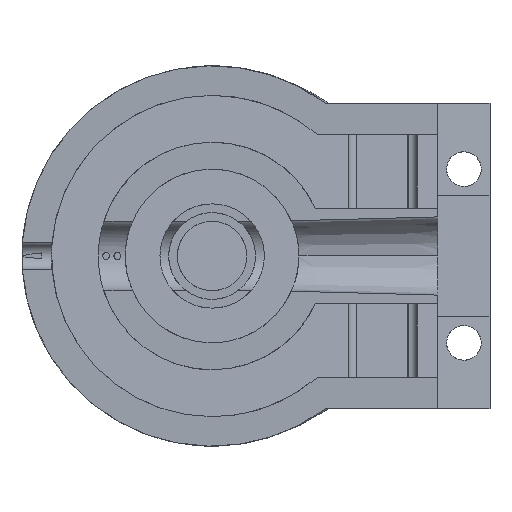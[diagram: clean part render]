
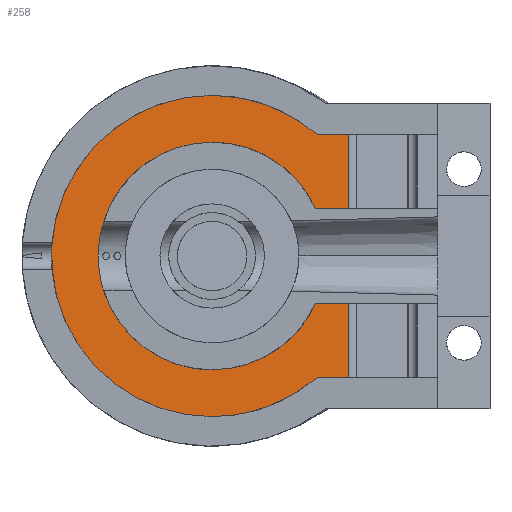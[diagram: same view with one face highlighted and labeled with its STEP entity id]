
A CAD part, left-side view. The second image highlights one B-rep face of the part: STEP entity #258.
In plain terms, the highlighted planar face has unit normal (-0.994, -0.113, 0).
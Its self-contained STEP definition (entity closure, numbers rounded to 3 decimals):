
#258=ADVANCED_FACE('',(#539),#540,.T.);
#539=FACE_OUTER_BOUND('',#828,.T.);
#540=PLANE('',#829);
#828=EDGE_LOOP('',(#1596,#1597,#1598,#1599,#1600,#1601,#1602,#1603,#1604,#1605,#1606,#1607));
#829=AXIS2_PLACEMENT_3D('',#1608,#1609,#1610);
#1596=ORIENTED_EDGE('',*,*,#2100,.T.);
#1597=ORIENTED_EDGE('',*,*,#2052,.F.);
#1598=ORIENTED_EDGE('',*,*,#1972,.F.);
#1599=ORIENTED_EDGE('',*,*,#1901,.F.);
#1600=ORIENTED_EDGE('',*,*,#1970,.F.);
#1601=ORIENTED_EDGE('',*,*,#1996,.F.);
#1602=ORIENTED_EDGE('',*,*,#2101,.T.);
#1603=ORIENTED_EDGE('',*,*,#2029,.F.);
#1604=ORIENTED_EDGE('',*,*,#1926,.F.);
#1605=ORIENTED_EDGE('',*,*,#2040,.F.);
#1606=ORIENTED_EDGE('',*,*,#1948,.F.);
#1607=ORIENTED_EDGE('',*,*,#2102,.F.);
#1608=CARTESIAN_POINT('',(7.184,77.72,0.));
#1609=DIRECTION('',(-0.994,-0.113,0.));
#1610=DIRECTION('',(0.,0.,1.0));
#1901=EDGE_CURVE('',#2348,#2351,#2352,.T.);
#1926=EDGE_CURVE('',#2386,#2389,#2390,.T.);
#1948=EDGE_CURVE('',#2421,#2419,#2423,.T.);
#1970=EDGE_CURVE('',#2454,#2348,#2456,.T.);
#1972=EDGE_CURVE('',#2351,#2458,#2459,.T.);
#1996=EDGE_CURVE('',#2496,#2454,#2498,.T.);
#2029=EDGE_CURVE('',#2389,#2533,#2541,.T.);
#2040=EDGE_CURVE('',#2419,#2386,#2555,.T.);
#2052=EDGE_CURVE('',#2458,#2566,#2571,.T.);
#2100=EDGE_CURVE('',#2633,#2566,#2634,.T.);
#2101=EDGE_CURVE('',#2496,#2533,#2635,.T.);
#2102=EDGE_CURVE('',#2633,#2421,#2636,.T.);
#2348=VERTEX_POINT('',#3479);
#2351=VERTEX_POINT('',#3483);
#2352=ELLIPSE('',#3484,18.62,18.5);
#2386=VERTEX_POINT('',#3650);
#2389=VERTEX_POINT('',#3654);
#2390=ELLIPSE('',#3655,13.185,13.1);
#2419=VERTEX_POINT('',#3764);
#2421=VERTEX_POINT('',#3767);
#2423=ELLIPSE('',#3770,13.185,13.1);
#2454=VERTEX_POINT('',#3811);
#2456=ELLIPSE('',#3814,18.62,18.5);
#2458=VERTEX_POINT('',#3816);
#2459=ELLIPSE('',#3817,18.62,18.5);
#2496=VERTEX_POINT('',#3907);
#2498=LINE('',#3909,#3910);
#2533=VERTEX_POINT('',#3976);
#2541=LINE('',#3987,#3988);
#2555=ELLIPSE('',#4005,13.185,13.1);
#2566=VERTEX_POINT('',#4021);
#2571=LINE('',#4028,#4029);
#2633=VERTEX_POINT('',#4237);
#2634=LINE('',#4238,#4239);
#2635=LINE('',#4240,#4241);
#2636=LINE('',#4242,#4243);
#3479=CARTESIAN_POINT('',(6.354,85.,-18.5));
#3483=CARTESIAN_POINT('',(6.354,85.,18.5));
#3484=AXIS2_PLACEMENT_3D('',#4448,#4449,#4450);
#3650=CARTESIAN_POINT('',(6.354,85.,-13.1));
#3654=CARTESIAN_POINT('',(7.709,73.111,-5.5));
#3655=AXIS2_PLACEMENT_3D('',#4484,#4485,#4486);
#3764=CARTESIAN_POINT('',(6.354,85.,13.1));
#3767=CARTESIAN_POINT('',(7.709,73.111,5.5));
#3770=AXIS2_PLACEMENT_3D('',#4517,#4518,#4519);
#3811=CARTESIAN_POINT('',(7.732,72.907,-14.0));
#3814=AXIS2_PLACEMENT_3D('',#4546,#4547,#4548);
#3816=CARTESIAN_POINT('',(7.732,72.907,14.0));
#3817=AXIS2_PLACEMENT_3D('',#4549,#4550,#4551);
#3907=CARTESIAN_POINT('',(8.143,69.296,-14.0));
#3909=CARTESIAN_POINT('',(7.563,74.388,-14.0));
#3910=VECTOR('',#4594,1.0);
#3976=CARTESIAN_POINT('',(8.143,69.296,-5.5));
#3987=CARTESIAN_POINT('',(7.557,74.438,-5.5));
#3988=VECTOR('',#4638,1.0);
#4005=AXIS2_PLACEMENT_3D('',#4648,#4649,#4650);
#4021=CARTESIAN_POINT('',(8.143,69.296,14.0));
#4028=CARTESIAN_POINT('',(7.563,74.388,14.0));
#4029=VECTOR('',#4661,1.0);
#4237=CARTESIAN_POINT('',(8.143,69.296,5.5));
#4238=CARTESIAN_POINT('',(8.143,69.296,0.));
#4239=VECTOR('',#4716,1.0);
#4240=CARTESIAN_POINT('',(8.143,69.296,0.));
#4241=VECTOR('',#4717,1.0);
#4242=CARTESIAN_POINT('',(7.557,74.438,5.5));
#4243=VECTOR('',#4718,1.0);
#4448=CARTESIAN_POINT('',(6.354,85.,0.));
#4449=DIRECTION('',(0.994,0.113,0.));
#4450=DIRECTION('',(-0.113,0.994,0.));
#4484=CARTESIAN_POINT('',(6.354,85.,0.));
#4485=DIRECTION('',(-0.994,-0.113,0.));
#4486=DIRECTION('',(-0.113,0.994,0.));
#4517=CARTESIAN_POINT('',(6.354,85.,0.));
#4518=DIRECTION('',(-0.994,-0.113,0.));
#4519=DIRECTION('',(-0.113,0.994,0.));
#4546=CARTESIAN_POINT('',(6.354,85.,0.));
#4547=DIRECTION('',(0.994,0.113,0.));
#4548=DIRECTION('',(-0.113,0.994,0.));
#4549=CARTESIAN_POINT('',(6.354,85.,0.));
#4550=DIRECTION('',(0.994,0.113,0.));
#4551=DIRECTION('',(-0.113,0.994,0.));
#4594=DIRECTION('',(-0.113,0.994,0.));
#4638=DIRECTION('',(0.113,-0.994,0.));
#4648=CARTESIAN_POINT('',(6.354,85.,0.));
#4649=DIRECTION('',(-0.994,-0.113,0.));
#4650=DIRECTION('',(-0.113,0.994,0.));
#4661=DIRECTION('',(0.113,-0.994,0.));
#4716=DIRECTION('',(0.0,0.0,1.0));
#4717=DIRECTION('',(0.0,0.0,1.0));
#4718=DIRECTION('',(-0.113,0.994,0.));
